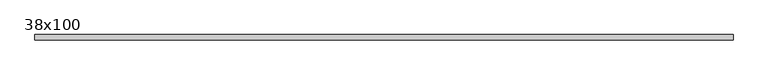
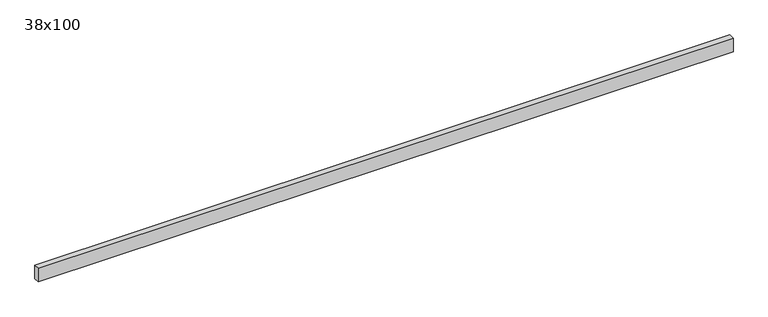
"""IFC4 building model written with IfcOpenShell, lengths in millimetres: beam geometry, Poutre - Bois de construction de dimensions courantes : 38x100."""

from ifc_helpers import new_model, si_unit, frame, origin, place, context, project, spatial, polyline, outline, extrude, source, transform, mapped, element, save


def beam_38x100_dac6d599(model_context):
    return source(origin(), model_context, "Body", "SweptSolid", [
        extrude(outline(polyline([(2433.0, 19.05), (2433.0, -19.05), (-2433.0, -19.05), (-2433.0, 19.05), (2433.0, 19.05)])), frame((0.0, 0.0, -50.0), z_axis=(0.0, 0.0, 1.0), x_axis=(1.0, 0.0, 0.0)), (0.0, 0.0, 1.0), 100.0),
    ])


if __name__ == "__main__":
    model = new_model("IFC4")
    model_context = context("Model", 3, world=origin())
    ifc_project = project(units=[si_unit("LENGTHUNIT", "METRE", prefix="MILLI")], contexts=[model_context])
    site = spatial("IfcSite", under=ifc_project)
    building = spatial("IfcBuilding", under=site)
    placement = place(None, origin())
    beam_38x100_shape = beam_38x100_dac6d599(model_context)
    element("IfcBeam", 1, ObjectType="Poutre - Bois de construction de dimensions courantes : 38x100", at=placement, inside=building, context=model_context, shape_type="MappedRepresentation", body=[
        mapped(beam_38x100_shape, transform((0.0, 0.0, 0.0), x_axis=(1.0, 0.0, 0.0), y_axis=(0.0, 1.0, 0.0), z_axis=(0.0, 0.0, 1.0))),
    ])
    save(model, "model.ifc")
